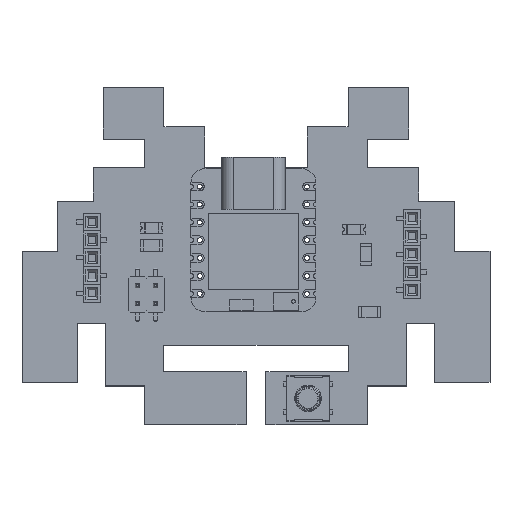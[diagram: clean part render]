
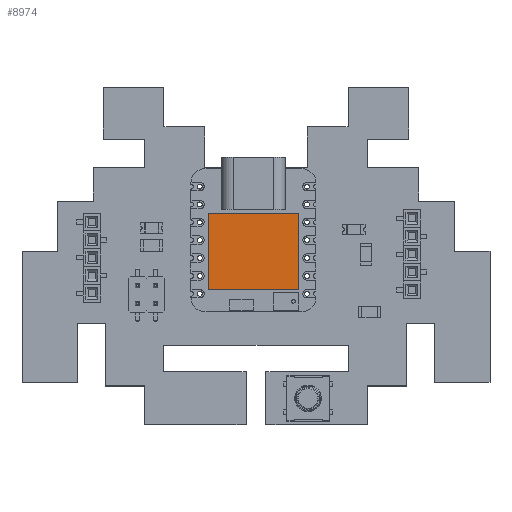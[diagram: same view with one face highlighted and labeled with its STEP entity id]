
A CAD part, top view. The second image highlights one B-rep face of the part: STEP entity #8974.
In plain terms, the highlighted planar face has unit normal (0, 0, 1).
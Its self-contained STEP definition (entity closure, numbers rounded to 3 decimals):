
#8845 = VERTEX_POINT('',#8846);
#8846 = CARTESIAN_POINT('',(-6.425,7.01,3.));
#8852 = EDGE_CURVE('',#8845,#8853,#8855,.T.);
#8853 = VERTEX_POINT('',#8854);
#8854 = CARTESIAN_POINT('',(-6.425,-3.84,3.));
#8855 = LINE('',#8856,#8857);
#8856 = CARTESIAN_POINT('',(-6.425,7.01,3.));
#8857 = VECTOR('',#8858,1.);
#8858 = DIRECTION('',(0.,-1.,0.));
#8883 = EDGE_CURVE('',#8853,#8884,#8886,.T.);
#8884 = VERTEX_POINT('',#8885);
#8885 = CARTESIAN_POINT('',(6.425,-3.84,3.));
#8886 = LINE('',#8887,#8888);
#8887 = CARTESIAN_POINT('',(-6.425,-3.84,3.));
#8888 = VECTOR('',#8889,1.);
#8889 = DIRECTION('',(1.,0.,0.));
#8914 = EDGE_CURVE('',#8884,#8915,#8917,.T.);
#8915 = VERTEX_POINT('',#8916);
#8916 = CARTESIAN_POINT('',(6.425,7.01,3.));
#8917 = LINE('',#8918,#8919);
#8918 = CARTESIAN_POINT('',(6.425,-3.84,3.));
#8919 = VECTOR('',#8920,1.);
#8920 = DIRECTION('',(0.,1.,0.));
#8945 = EDGE_CURVE('',#8915,#8845,#8946,.T.);
#8946 = LINE('',#8947,#8948);
#8947 = CARTESIAN_POINT('',(6.425,7.01,3.));
#8948 = VECTOR('',#8949,1.);
#8949 = DIRECTION('',(-1.,0.,0.));
#8974 = ADVANCED_FACE('',(#8975),#8981,.T.);
#8975 = FACE_BOUND('',#8976,.T.);
#8976 = EDGE_LOOP('',(#8977,#8978,#8979,#8980));
#8977 = ORIENTED_EDGE('',*,*,#8852,.T.);
#8978 = ORIENTED_EDGE('',*,*,#8883,.T.);
#8979 = ORIENTED_EDGE('',*,*,#8914,.T.);
#8980 = ORIENTED_EDGE('',*,*,#8945,.T.);
#8981 = PLANE('',#8982);
#8982 = AXIS2_PLACEMENT_3D('',#8983,#8984,#8985);
#8983 = CARTESIAN_POINT('',(0.,1.585,3.));
#8984 = DIRECTION('',(0.,0.,1.));
#8985 = DIRECTION('',(1.,0.,-0.));
